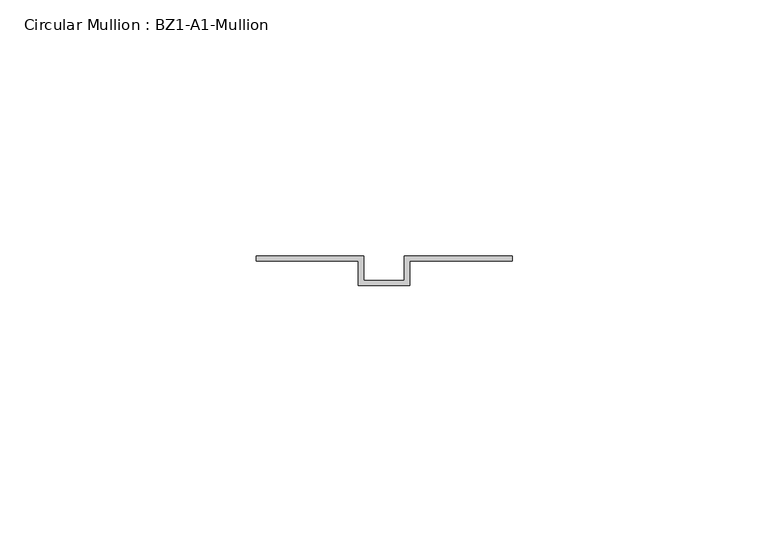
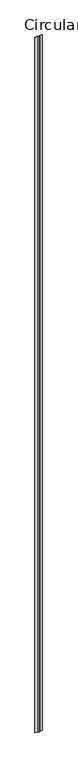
"""IFC4 building model written with IfcOpenShell, lengths in millimetres: member geometry, Circular Mullion : BZ1-A1-Mullion."""

from ifc_helpers import new_model, si_unit, frame, origin, place, context, project, spatial, polyline, outline, extrude, source, transform, mapped, element, save


def circular_mullion_bz1_a1_mullion_a1f5a826(model_context):
    return source(origin(), model_context, "Body", "SweptSolid", [
        extrude(outline(polyline([(-25.0, 11.0), (-4.0, 11.0), (-4.0, 6.2), (4.0, 6.2), (4.0, 11.0), (25.0, 11.0), (25.0, 10.0), (5.0, 10.0), (5.0, 5.2), (-5.0, 5.2), (-5.0, 10.0), (-25.0, 10.0), (-25.0, 11.0)])), frame((0.0, 0.0, -5042.8734041), z_axis=(0.0, 0.0, 1.0), x_axis=(1.0, 0.0, 0.0)), (0.0, 0.0, 1.0), 5042.8734041),
    ])


if __name__ == "__main__":
    model = new_model("IFC4")
    model_context = context("Model", 3, world=origin())
    ifc_project = project(units=[si_unit("LENGTHUNIT", "METRE", prefix="MILLI")], contexts=[model_context])
    site = spatial("IfcSite", under=ifc_project)
    building = spatial("IfcBuilding", under=site)
    placement = place(None, origin())
    circular_mullion_bz1_a1_mullion_shape = circular_mullion_bz1_a1_mullion_a1f5a826(model_context)
    element("IfcMember", 1, ObjectType="Circular Mullion : BZ1-A1-Mullion", at=placement, inside=building, context=model_context, shape_type="MappedRepresentation", body=[
        mapped(circular_mullion_bz1_a1_mullion_shape, transform((0.0, 0.0, 0.0), x_axis=(1.0, 0.0, 0.0), y_axis=(0.0, 1.0, 0.0), z_axis=(0.0, 0.0, 1.0))),
    ])
    save(model, "model.ifc")
